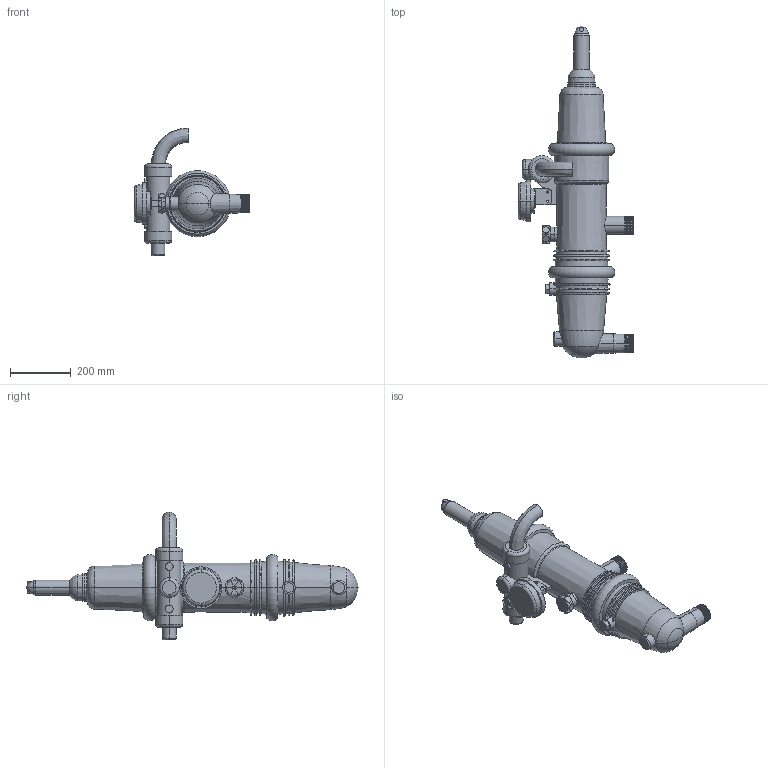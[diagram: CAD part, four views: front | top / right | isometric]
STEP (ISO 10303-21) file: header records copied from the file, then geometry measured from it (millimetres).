
FILE_DESCRIPTION (( 'STEP AP203' ), '1' );
FILE_NAME ('055000-000001 (1).STEP', '2020-02-05T12:09:55', ( '' ), ( '' ), 'SwSTEP 2.0', 'SolidWorks 2019', '' );
FILE_SCHEMA (( 'CONFIG_CONTROL_DESIGN' ));
Length unit declared in the file: millimetre
Products named in the file (1): 055000-000001 (1)
Bounding box: 381.51 x 1095.71 x 421 mm (x, y, z)
Volume: 22708562.6 mm3; surface area: 833606 mm2
Topology: 2 solids, 2 shells, 393 faces, 906 edges, 528 vertices
Faces by surface type: cone 186, cylinder 98, plane 58, torus 39, bspline 12
Entity records: 16113 total; most frequent: CARTESIAN_POINT 7676, ORIENTED_EDGE 1804, DIRECTION 1713, EDGE_CURVE 902, AXIS2_PLACEMENT_3D 711, VERTEX_POINT 528, EDGE_LOOP 412, ADVANCED_FACE 393
